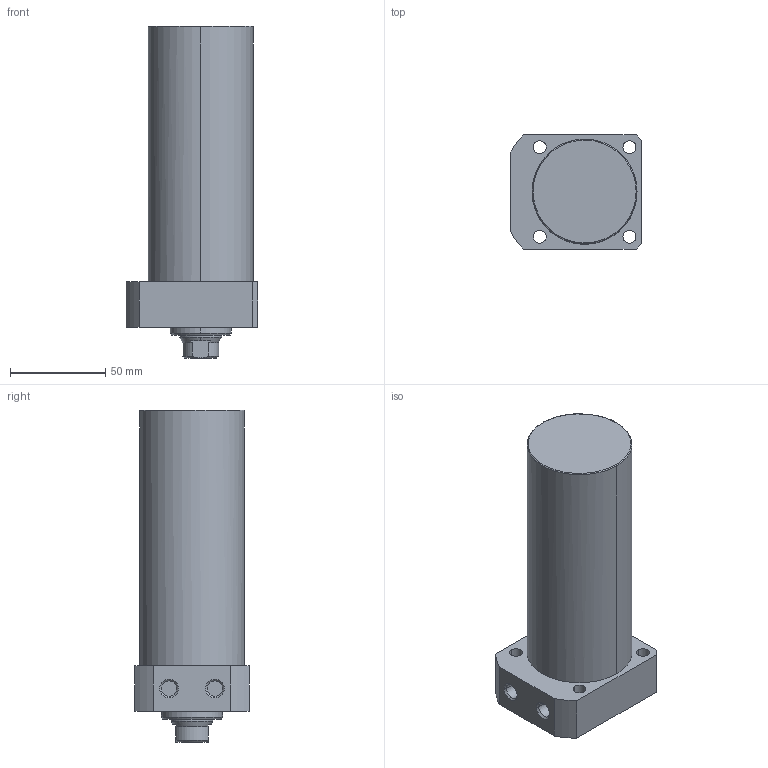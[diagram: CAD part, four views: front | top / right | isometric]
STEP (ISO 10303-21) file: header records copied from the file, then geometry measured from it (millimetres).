
FILE_DESCRIPTION((' '),'2;1');
FILE_NAME( 'TLLR-055CA-105.STEP.stp', '2025-10-24T16:34:42', (' '), ('--- Datakit www.datakit.com---'), ' Datakit CrossCadWare V2024.1 Dec 21 2023', 'Mastercam 2025', ' ');
FILE_SCHEMA(('AUTOMOTIVE_DESIGN { 1 0 10303 214 1 1 1 1 }'));
Length unit declared in the file: millimetre
Products named in the file (1): TLLR-055CA-105
Bounding box: 69 x 60 x 174 mm (x, y, z)
Volume: 415988.6 mm3; surface area: 41440.5 mm2
Topology: 1 solids, 1 shells, 63 faces, 177 edges, 122 vertices
Faces by surface type: cylinder 28, plane 19, cone 14, torus 2
Entity records: 2164 total; most frequent: CARTESIAN_POINT 401, DIRECTION 400, ORIENTED_EDGE 350, EDGE_CURVE 175, AXIS2_PLACEMENT_3D 169, VERTEX_POINT 122, CIRCLE 105, EDGE_LOOP 79
